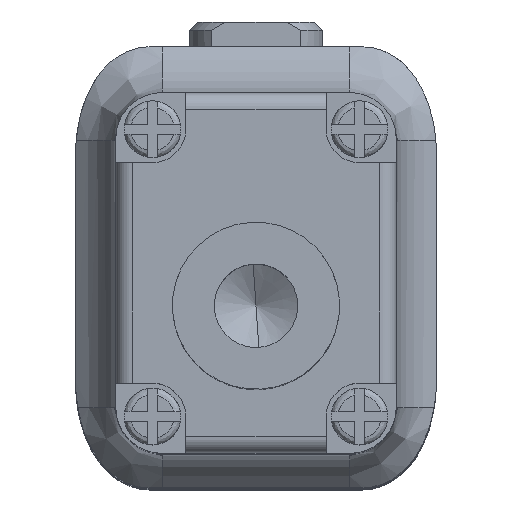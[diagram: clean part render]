
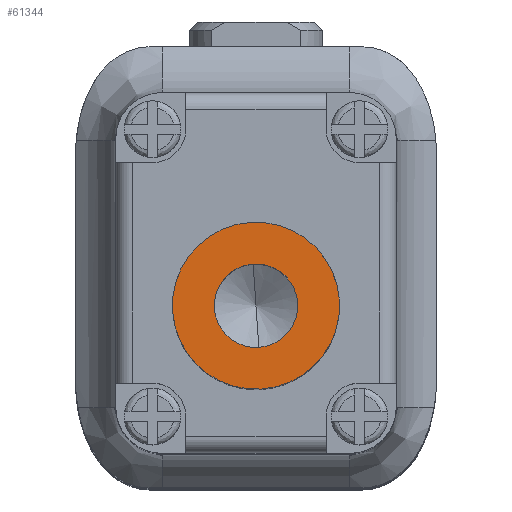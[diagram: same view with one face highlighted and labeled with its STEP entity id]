
A CAD part, top view. The second image highlights one B-rep face of the part: STEP entity #61344.
In plain terms, the highlighted planar face has unit normal (0, 0, 1) as drawn and (0, 0, -1) by its records, which use the part's own axes.
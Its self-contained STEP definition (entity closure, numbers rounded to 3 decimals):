
#1370 = CIRCLE ( 'NONE', #44054, 2.5 ) ;
#1856 = DIRECTION ( 'NONE',  ( 0., 0., -1. ) ) ;
#2157 = AXIS2_PLACEMENT_3D ( 'NONE', #70318, #46859, #41239 ) ;
#5217 = VERTEX_POINT ( 'NONE', #28549 ) ;
#9568 = DIRECTION ( 'NONE',  ( 0., 0., -1. ) ) ;
#12295 = EDGE_LOOP ( 'NONE', ( #38886, #49586 ) ) ;
#14115 = FACE_BOUND ( 'NONE', #12295, .T. ) ;
#14523 = CARTESIAN_POINT ( 'NONE',  ( 0., 0., 0. ) ) ;
#14765 = PLANE ( 'NONE',  #27847 ) ;
#16436 = VERTEX_POINT ( 'NONE', #66182 ) ;
#16984 = DIRECTION ( 'NONE',  ( 0., 0., 1. ) ) ;
#17610 = ORIENTED_EDGE ( 'NONE', *, *, #32482, .F. ) ;
#22488 = EDGE_LOOP ( 'NONE', ( #17610, #70399 ) ) ;
#23176 = DIRECTION ( 'NONE',  ( -1., 0., 0. ) ) ;
#26362 = DIRECTION ( 'NONE',  ( 0., 0., 1. ) ) ;
#26699 = VERTEX_POINT ( 'NONE', #30240 ) ;
#27847 = AXIS2_PLACEMENT_3D ( 'NONE', #14523, #26362, #67399 ) ;
#28549 = CARTESIAN_POINT ( 'NONE',  ( -2.5, 0., 0. ) ) ;
#28737 = CIRCLE ( 'NONE', #52473, 1.25 ) ;
#29574 = CARTESIAN_POINT ( 'NONE',  ( 0., 0., 0. ) ) ;
#30240 = CARTESIAN_POINT ( 'NONE',  ( -1.25, 0., 0. ) ) ;
#32442 = DIRECTION ( 'NONE',  ( -1., 0., 0. ) ) ;
#32482 = EDGE_CURVE ( 'NONE', #5217, #52923, #1370, .T. ) ;
#33594 = EDGE_CURVE ( 'NONE', #26699, #16436, #28737, .T. ) ;
#35233 = FACE_OUTER_BOUND ( 'NONE', #22488, .T. ) ;
#38886 = ORIENTED_EDGE ( 'NONE', *, *, #33594, .F. ) ;
#41239 = DIRECTION ( 'NONE',  ( -1., 0., 0. ) ) ;
#42902 = DIRECTION ( 'NONE',  ( -1., 0., 0. ) ) ;
#43938 = CARTESIAN_POINT ( 'NONE',  ( 0., 0., 0. ) ) ;
#44054 = AXIS2_PLACEMENT_3D ( 'NONE', #29574, #16984, #23176 ) ;
#45325 = AXIS2_PLACEMENT_3D ( 'NONE', #54200, #1856, #42902 ) ;
#46616 = CIRCLE ( 'NONE', #45325, 1.25 ) ;
#46858 = EDGE_CURVE ( 'NONE', #52923, #5217, #75136, .T. ) ;
#46859 = DIRECTION ( 'NONE',  ( 0., 0., 1. ) ) ;
#49586 = ORIENTED_EDGE ( 'NONE', *, *, #65955, .F. ) ;
#52473 = AXIS2_PLACEMENT_3D ( 'NONE', #43938, #9568, #32442 ) ;
#52923 = VERTEX_POINT ( 'NONE', #62739 ) ;
#54200 = CARTESIAN_POINT ( 'NONE',  ( 0., 0., 0. ) ) ;
#61344 = ADVANCED_FACE ( 'NONE', ( #35233, #14115 ), #14765, .F. ) ;
#62739 = CARTESIAN_POINT ( 'NONE',  ( 2.5, 0., 0. ) ) ;
#65955 = EDGE_CURVE ( 'NONE', #16436, #26699, #46616, .T. ) ;
#66182 = CARTESIAN_POINT ( 'NONE',  ( 1.25, 0., 0. ) ) ;
#67399 = DIRECTION ( 'NONE',  ( 1., 0., 0. ) ) ;
#70318 = CARTESIAN_POINT ( 'NONE',  ( 0., 0., 0. ) ) ;
#70399 = ORIENTED_EDGE ( 'NONE', *, *, #46858, .F. ) ;
#75136 = CIRCLE ( 'NONE', #2157, 2.5 ) ;
